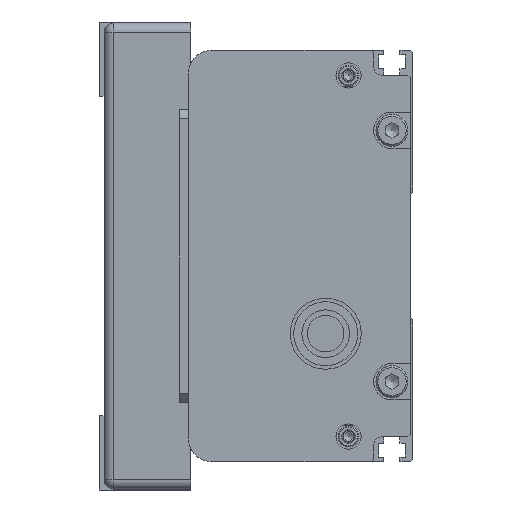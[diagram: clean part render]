
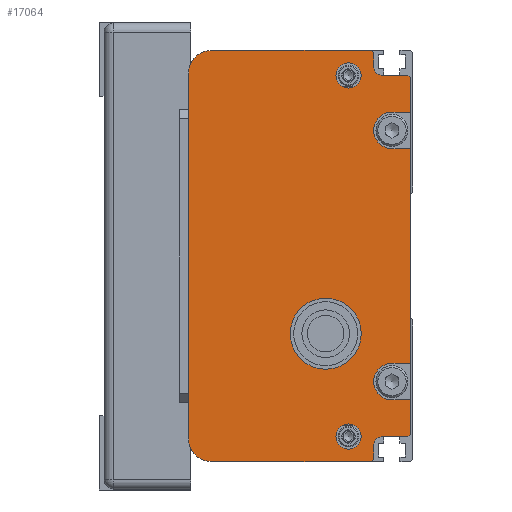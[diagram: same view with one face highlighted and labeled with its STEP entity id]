
A CAD part, left-side view. The second image highlights one B-rep face of the part: STEP entity #17064.
In plain terms, the highlighted planar face has unit normal (-1, 0, 0) as drawn and (0, 0, -1) by its records, which use the part's own axes.
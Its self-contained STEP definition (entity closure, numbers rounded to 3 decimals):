
#1088=FACE_BOUND('',#2518,.T.);
#1089=FACE_BOUND('',#2519,.T.);
#1090=FACE_BOUND('',#2520,.T.);
#1436=FACE_OUTER_BOUND('',#2517,.T.);
#2517=EDGE_LOOP('',(#11869,#11870,#11871,#11872,#11873,#11874,#11875,#11876,
#11877,#11878,#11879,#11880,#11881,#11882,#11883,#11884,#11885,#11886,#11887,
#11888,#11889,#11890,#11891,#11892));
#2518=EDGE_LOOP('',(#11893));
#2519=EDGE_LOOP('',(#11894));
#2520=EDGE_LOOP('',(#11895));
#3819=LINE('',#24749,#5317);
#3845=LINE('',#24816,#5343);
#3847=LINE('',#24821,#5345);
#3848=LINE('',#24823,#5346);
#3849=LINE('',#24826,#5347);
#3850=LINE('',#24828,#5348);
#3851=LINE('',#24830,#5349);
#3852=LINE('',#24834,#5350);
#3853=LINE('',#24836,#5351);
#3854=LINE('',#24838,#5352);
#3855=LINE('',#24842,#5353);
#3856=LINE('',#24844,#5354);
#3857=LINE('',#24846,#5355);
#3858=LINE('',#24848,#5356);
#3859=LINE('',#24852,#5357);
#3860=LINE('',#24854,#5358);
#3861=LINE('',#24855,#5359);
#3862=LINE('',#24856,#5360);
#5317=VECTOR('',#20112,80.);
#5343=VECTOR('',#20164,0.707);
#5345=VECTOR('',#20168,0.707);
#5346=VECTOR('',#20169,3.);
#5347=VECTOR('',#20172,5.5);
#5348=VECTOR('',#20173,7.5);
#5349=VECTOR('',#20174,4.);
#5350=VECTOR('',#20177,4.);
#5351=VECTOR('',#20178,47.);
#5352=VECTOR('',#20179,4.);
#5353=VECTOR('',#20182,4.);
#5354=VECTOR('',#20183,7.5);
#5355=VECTOR('',#20184,0.707);
#5356=VECTOR('',#20185,5.5);
#5357=VECTOR('',#20188,3.);
#5358=VECTOR('',#20189,0.707);
#5359=VECTOR('',#20190,35.);
#5360=VECTOR('',#20191,35.);
#6714=CIRCLE('',#18234,5.);
#6717=CIRCLE('',#18241,5.);
#6719=CIRCLE('',#18247,2.);
#6720=CIRCLE('',#18248,4.);
#6721=CIRCLE('',#18249,4.);
#6722=CIRCLE('',#18250,2.);
#6723=CIRCLE('',#18251,7.769);
#6724=CIRCLE('',#18252,2.75);
#6725=CIRCLE('',#18253,2.75);
#7329=VERTEX_POINT('',#24746);
#7330=VERTEX_POINT('',#24748);
#7331=VERTEX_POINT('',#24752);
#7334=VERTEX_POINT('',#24763);
#7357=VERTEX_POINT('',#24813);
#7358=VERTEX_POINT('',#24815);
#7359=VERTEX_POINT('',#24819);
#7360=VERTEX_POINT('',#24820);
#7361=VERTEX_POINT('',#24822);
#7362=VERTEX_POINT('',#24824);
#7363=VERTEX_POINT('',#24827);
#7364=VERTEX_POINT('',#24829);
#7365=VERTEX_POINT('',#24831);
#7366=VERTEX_POINT('',#24833);
#7367=VERTEX_POINT('',#24835);
#7368=VERTEX_POINT('',#24837);
#7369=VERTEX_POINT('',#24839);
#7370=VERTEX_POINT('',#24841);
#7371=VERTEX_POINT('',#24843);
#7372=VERTEX_POINT('',#24845);
#7373=VERTEX_POINT('',#24847);
#7374=VERTEX_POINT('',#24849);
#7375=VERTEX_POINT('',#24851);
#7376=VERTEX_POINT('',#24853);
#7377=VERTEX_POINT('',#24857);
#7378=VERTEX_POINT('',#24859);
#7379=VERTEX_POINT('',#24861);
#9123=EDGE_CURVE('',#7329,#7330,#3819,.T.);
#9125=EDGE_CURVE('',#7330,#7331,#6714,.T.);
#9130=EDGE_CURVE('',#7334,#7329,#6717,.T.);
#9154=EDGE_CURVE('',#7357,#7358,#3845,.T.);
#9156=EDGE_CURVE('',#7359,#7360,#3847,.T.);
#9157=EDGE_CURVE('',#7359,#7361,#3848,.T.);
#9158=EDGE_CURVE('',#7361,#7362,#6719,.T.);
#9159=EDGE_CURVE('',#7362,#7358,#3849,.T.);
#9160=EDGE_CURVE('',#7363,#7357,#3850,.T.);
#9161=EDGE_CURVE('',#7363,#7364,#3851,.T.);
#9162=EDGE_CURVE('',#7364,#7365,#6720,.T.);
#9163=EDGE_CURVE('',#7365,#7366,#3852,.T.);
#9164=EDGE_CURVE('',#7367,#7366,#3853,.T.);
#9165=EDGE_CURVE('',#7367,#7368,#3854,.T.);
#9166=EDGE_CURVE('',#7368,#7369,#6721,.T.);
#9167=EDGE_CURVE('',#7369,#7370,#3855,.T.);
#9168=EDGE_CURVE('',#7371,#7370,#3856,.T.);
#9169=EDGE_CURVE('',#7372,#7371,#3857,.T.);
#9170=EDGE_CURVE('',#7372,#7373,#3858,.T.);
#9171=EDGE_CURVE('',#7373,#7374,#6722,.T.);
#9172=EDGE_CURVE('',#7374,#7375,#3859,.T.);
#9173=EDGE_CURVE('',#7376,#7375,#3860,.T.);
#9174=EDGE_CURVE('',#7331,#7376,#3861,.T.);
#9175=EDGE_CURVE('',#7360,#7334,#3862,.T.);
#9176=EDGE_CURVE('',#7377,#7377,#6723,.T.);
#9177=EDGE_CURVE('',#7378,#7378,#6724,.T.);
#9178=EDGE_CURVE('',#7379,#7379,#6725,.T.);
#11869=ORIENTED_EDGE('',*,*,#9156,.F.);
#11870=ORIENTED_EDGE('',*,*,#9157,.T.);
#11871=ORIENTED_EDGE('',*,*,#9158,.T.);
#11872=ORIENTED_EDGE('',*,*,#9159,.T.);
#11873=ORIENTED_EDGE('',*,*,#9154,.F.);
#11874=ORIENTED_EDGE('',*,*,#9160,.F.);
#11875=ORIENTED_EDGE('',*,*,#9161,.T.);
#11876=ORIENTED_EDGE('',*,*,#9162,.T.);
#11877=ORIENTED_EDGE('',*,*,#9163,.T.);
#11878=ORIENTED_EDGE('',*,*,#9164,.F.);
#11879=ORIENTED_EDGE('',*,*,#9165,.T.);
#11880=ORIENTED_EDGE('',*,*,#9166,.T.);
#11881=ORIENTED_EDGE('',*,*,#9167,.T.);
#11882=ORIENTED_EDGE('',*,*,#9168,.F.);
#11883=ORIENTED_EDGE('',*,*,#9169,.F.);
#11884=ORIENTED_EDGE('',*,*,#9170,.T.);
#11885=ORIENTED_EDGE('',*,*,#9171,.T.);
#11886=ORIENTED_EDGE('',*,*,#9172,.T.);
#11887=ORIENTED_EDGE('',*,*,#9173,.F.);
#11888=ORIENTED_EDGE('',*,*,#9174,.F.);
#11889=ORIENTED_EDGE('',*,*,#9125,.F.);
#11890=ORIENTED_EDGE('',*,*,#9123,.F.);
#11891=ORIENTED_EDGE('',*,*,#9130,.F.);
#11892=ORIENTED_EDGE('',*,*,#9175,.F.);
#11893=ORIENTED_EDGE('',*,*,#9176,.T.);
#11894=ORIENTED_EDGE('',*,*,#9177,.T.);
#11895=ORIENTED_EDGE('',*,*,#9178,.T.);
#16448=PLANE('',#18246);
#17064=ADVANCED_FACE('',(#1436,#1088,#1089,#1090),#16448,.F.);
#18234=AXIS2_PLACEMENT_3D('',#24753,#20116,#20117);
#18241=AXIS2_PLACEMENT_3D('',#24765,#20132,#20133);
#18246=AXIS2_PLACEMENT_3D('',#24818,#20166,#20167);
#18247=AXIS2_PLACEMENT_3D('',#24825,#20170,#20171);
#18248=AXIS2_PLACEMENT_3D('',#24832,#20175,#20176);
#18249=AXIS2_PLACEMENT_3D('',#24840,#20180,#20181);
#18250=AXIS2_PLACEMENT_3D('',#24850,#20186,#20187);
#18251=AXIS2_PLACEMENT_3D('',#24858,#20192,#20193);
#18252=AXIS2_PLACEMENT_3D('',#24860,#20194,#20195);
#18253=AXIS2_PLACEMENT_3D('',#24862,#20196,#20197);
#20112=DIRECTION('',(-1.,0.,0.));
#20116=DIRECTION('center_axis',(0.,0.,1.));
#20117=DIRECTION('ref_axis',(0.,1.,0.));
#20132=DIRECTION('center_axis',(0.,0.,1.));
#20133=DIRECTION('ref_axis',(1.,0.,0.));
#20164=DIRECTION('',(0.707,0.707,0.));
#20166=DIRECTION('center_axis',(0.,0.,1.));
#20167=DIRECTION('ref_axis',(1.,0.,0.));
#20168=DIRECTION('',(0.707,0.707,0.));
#20169=DIRECTION('',(-1.,0.,0.));
#20170=DIRECTION('center_axis',(0.,0.,1.));
#20171=DIRECTION('ref_axis',(0.,1.,0.));
#20172=DIRECTION('',(0.,-1.,0.));
#20173=DIRECTION('',(1.,0.,0.));
#20174=DIRECTION('',(0.,1.,0.));
#20175=DIRECTION('center_axis',(0.,0.,1.));
#20176=DIRECTION('ref_axis',(-1.,0.,0.));
#20177=DIRECTION('',(0.,-1.,0.));
#20178=DIRECTION('',(1.,0.,0.));
#20179=DIRECTION('',(0.,1.,0.));
#20180=DIRECTION('center_axis',(0.,0.,1.));
#20181=DIRECTION('ref_axis',(-1.,0.,0.));
#20182=DIRECTION('',(0.,-1.,0.));
#20183=DIRECTION('',(1.,0.,0.));
#20184=DIRECTION('',(0.707,-0.707,0.));
#20185=DIRECTION('',(0.,1.,0.));
#20186=DIRECTION('center_axis',(0.,0.,1.));
#20187=DIRECTION('ref_axis',(-1.,0.,0.));
#20188=DIRECTION('',(-1.,0.,0.));
#20189=DIRECTION('',(0.707,-0.707,0.));
#20190=DIRECTION('',(0.,-1.,0.));
#20191=DIRECTION('',(0.,1.,0.));
#20192=DIRECTION('center_axis',(0.,0.,1.));
#20193=DIRECTION('ref_axis',(0.766,-0.643,0.));
#20194=DIRECTION('center_axis',(0.,0.,1.));
#20195=DIRECTION('ref_axis',(-1.,0.,0.));
#20196=DIRECTION('center_axis',(0.,0.,1.));
#20197=DIRECTION('ref_axis',(-1.,0.,0.));
#24746=CARTESIAN_POINT('',(37.988,51.846,-847.249));
#24748=CARTESIAN_POINT('',(-42.012,51.846,-847.249));
#24749=CARTESIAN_POINT('',(37.988,51.846,-847.249));
#24752=CARTESIAN_POINT('',(-47.012,46.846,-847.249));
#24753=CARTESIAN_POINT('Origin',(-42.012,46.846,-847.249));
#24763=CARTESIAN_POINT('',(42.988,46.846,-847.249));
#24765=CARTESIAN_POINT('Origin',(37.988,46.846,-847.249));
#24813=CARTESIAN_POINT('',(36.988,3.346,-847.249));
#24815=CARTESIAN_POINT('',(37.488,3.846,-847.249));
#24816=CARTESIAN_POINT('',(36.988,3.346,-847.249));
#24818=CARTESIAN_POINT('Origin',(-2.012,27.249,-847.249));
#24819=CARTESIAN_POINT('',(42.488,11.346,-847.249));
#24820=CARTESIAN_POINT('',(42.988,11.846,-847.249));
#24821=CARTESIAN_POINT('',(42.488,11.346,-847.249));
#24822=CARTESIAN_POINT('',(39.488,11.346,-847.249));
#24823=CARTESIAN_POINT('',(42.488,11.346,-847.249));
#24824=CARTESIAN_POINT('',(37.488,9.346,-847.249));
#24825=CARTESIAN_POINT('Origin',(39.488,9.346,-847.249));
#24826=CARTESIAN_POINT('',(37.488,9.346,-847.249));
#24827=CARTESIAN_POINT('',(29.488,3.346,-847.249));
#24828=CARTESIAN_POINT('',(29.488,3.346,-847.249));
#24829=CARTESIAN_POINT('',(29.488,7.346,-847.249));
#24830=CARTESIAN_POINT('',(29.488,3.346,-847.249));
#24831=CARTESIAN_POINT('',(21.488,7.346,-847.249));
#24832=CARTESIAN_POINT('Origin',(25.488,7.346,-847.249));
#24833=CARTESIAN_POINT('',(21.488,3.346,-847.249));
#24834=CARTESIAN_POINT('',(21.488,7.346,-847.249));
#24835=CARTESIAN_POINT('',(-25.512,3.346,-847.249));
#24836=CARTESIAN_POINT('',(-25.512,3.346,-847.249));
#24837=CARTESIAN_POINT('',(-25.512,7.346,-847.249));
#24838=CARTESIAN_POINT('',(-25.512,3.346,-847.249));
#24839=CARTESIAN_POINT('',(-33.512,7.346,-847.249));
#24840=CARTESIAN_POINT('Origin',(-29.512,7.346,-847.249));
#24841=CARTESIAN_POINT('',(-33.512,3.346,-847.249));
#24842=CARTESIAN_POINT('',(-33.512,7.346,-847.249));
#24843=CARTESIAN_POINT('',(-41.012,3.346,-847.249));
#24844=CARTESIAN_POINT('',(-41.012,3.346,-847.249));
#24845=CARTESIAN_POINT('',(-41.512,3.846,-847.249));
#24846=CARTESIAN_POINT('',(-41.512,3.846,-847.249));
#24847=CARTESIAN_POINT('',(-41.512,9.346,-847.249));
#24848=CARTESIAN_POINT('',(-41.512,3.846,-847.249));
#24849=CARTESIAN_POINT('',(-43.512,11.346,-847.249));
#24850=CARTESIAN_POINT('Origin',(-43.512,9.346,-847.249));
#24851=CARTESIAN_POINT('',(-46.512,11.346,-847.249));
#24852=CARTESIAN_POINT('',(-43.512,11.346,-847.249));
#24853=CARTESIAN_POINT('',(-47.012,11.846,-847.249));
#24854=CARTESIAN_POINT('',(-47.012,11.846,-847.249));
#24855=CARTESIAN_POINT('',(-47.012,46.846,-847.249));
#24856=CARTESIAN_POINT('',(42.988,11.846,-847.249));
#24857=CARTESIAN_POINT('',(20.939,16.853,-847.249));
#24858=CARTESIAN_POINT('Origin',(14.988,21.846,-847.249));
#24859=CARTESIAN_POINT('',(34.738,16.846,-847.249));
#24860=CARTESIAN_POINT('Origin',(37.488,16.846,-847.249));
#24861=CARTESIAN_POINT('',(-44.262,16.846,-847.249));
#24862=CARTESIAN_POINT('Origin',(-41.512,16.846,-847.249));
